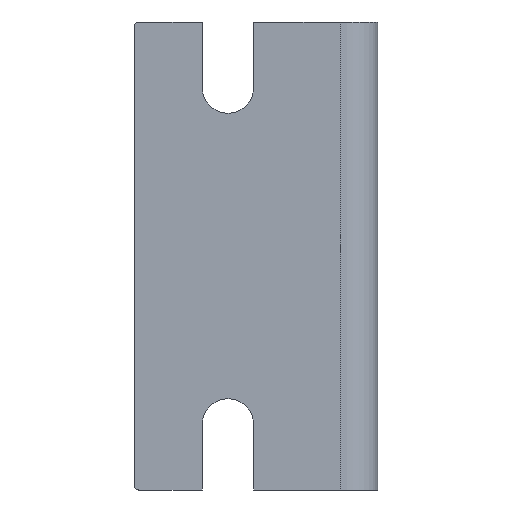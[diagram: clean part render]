
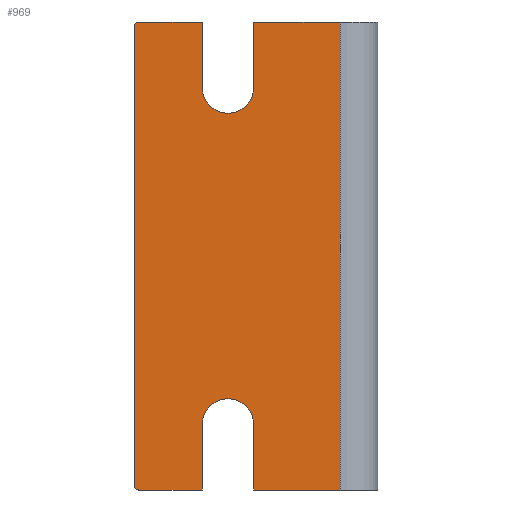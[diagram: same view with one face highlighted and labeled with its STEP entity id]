
A CAD part, front view. The second image highlights one B-rep face of the part: STEP entity #969.
In plain terms, the highlighted planar face has unit normal (0, -1, 0).
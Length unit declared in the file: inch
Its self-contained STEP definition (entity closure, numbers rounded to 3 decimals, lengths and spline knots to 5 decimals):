
#54=DIRECTION('',(1.,0.,0.));
#55=VECTOR('',#54,0.578);
#56=CARTESIAN_POINT('',(-0.828,-1.5,-1.5625));
#57=LINE('',#56,#55);
#104=DIRECTION('',(1.,0.,0.));
#105=VECTOR('',#104,0.423);
#106=CARTESIAN_POINT('',(-1.595,-1.5,-1.5625));
#107=LINE('',#106,#105);
#255=CARTESIAN_POINT('',(-1.595,-1.5,1.5325));
#256=DIRECTION('',(0.,-1.,0.));
#257=DIRECTION('',(0.,0.,1.));
#258=AXIS2_PLACEMENT_3D('',#255,#256,#257);
#263=DIRECTION('',(0.,0.,-1.));
#264=VECTOR('',#263,0.4375);
#265=CARTESIAN_POINT('',(-1.172,-1.5,1.5625));
#266=LINE('',#265,#264);
#270=CARTESIAN_POINT('',(-1.,-1.5,1.125));
#271=DIRECTION('',(0.,1.,0.));
#272=DIRECTION('',(1.,0.,0.));
#273=AXIS2_PLACEMENT_3D('',#270,#271,#272);
#278=DIRECTION('',(0.,0.,-1.));
#279=VECTOR('',#278,0.4375);
#280=CARTESIAN_POINT('',(-0.828,-1.5,1.5625));
#281=LINE('',#280,#279);
#285=DIRECTION('',(0.,0.,-1.));
#286=VECTOR('',#285,3.125);
#287=CARTESIAN_POINT('',(-0.25,-1.5,1.5625));
#288=LINE('',#287,#286);
#292=DIRECTION('',(0.,0.,1.));
#293=VECTOR('',#292,0.4375);
#294=CARTESIAN_POINT('',(-0.828,-1.5,-1.5625));
#295=LINE('',#294,#293);
#299=CARTESIAN_POINT('',(-1.,-1.5,-1.125));
#300=DIRECTION('',(0.,1.,0.));
#301=DIRECTION('',(-1.,0.,0.));
#302=AXIS2_PLACEMENT_3D('',#299,#300,#301);
#307=DIRECTION('',(0.,0.,1.));
#308=VECTOR('',#307,0.4375);
#309=CARTESIAN_POINT('',(-1.172,-1.5,-1.5625));
#310=LINE('',#309,#308);
#314=CARTESIAN_POINT('',(-1.595,-1.5,-1.5325));
#315=DIRECTION('',(0.,-1.,0.));
#316=DIRECTION('',(-1.,0.,0.));
#317=AXIS2_PLACEMENT_3D('',#314,#315,#316);
#322=DIRECTION('',(0.,0.,1.));
#323=VECTOR('',#322,3.065);
#324=CARTESIAN_POINT('',(-1.625,-1.5,-1.5325));
#325=LINE('',#324,#323);
#372=DIRECTION('',(1.,0.,0.));
#373=VECTOR('',#372,0.578);
#374=CARTESIAN_POINT('',(-0.828,-1.5,1.5625));
#375=LINE('',#374,#373);
#400=DIRECTION('',(1.,0.,0.));
#401=VECTOR('',#400,0.423);
#402=CARTESIAN_POINT('',(-1.595,-1.5,1.5625));
#403=LINE('',#402,#401);
#708=CARTESIAN_POINT('',(-0.25,-1.5,-1.5625));
#710=VERTEX_POINT('',#708);
#711=CARTESIAN_POINT('',(-0.25,-1.5,1.5625));
#712=VERTEX_POINT('',#711);
#739=CARTESIAN_POINT('',(-0.828,-1.5,-1.5625));
#741=VERTEX_POINT('',#739);
#743=CARTESIAN_POINT('',(-1.172,-1.5,-1.5625));
#745=VERTEX_POINT('',#743);
#747=CARTESIAN_POINT('',(-1.172,-1.5,1.5625));
#749=VERTEX_POINT('',#747);
#751=CARTESIAN_POINT('',(-0.828,-1.5,1.5625));
#753=VERTEX_POINT('',#751);
#763=CARTESIAN_POINT('',(-0.828,-1.5,-1.125));
#764=VERTEX_POINT('',#763);
#765=CARTESIAN_POINT('',(-1.172,-1.5,-1.125));
#766=VERTEX_POINT('',#765);
#767=CARTESIAN_POINT('',(-0.828,-1.5,1.125));
#768=CARTESIAN_POINT('',(-1.172,-1.5,1.125));
#769=VERTEX_POINT('',#767);
#770=VERTEX_POINT('',#768);
#803=CARTESIAN_POINT('',(-1.595,-1.5,1.5625));
#804=CARTESIAN_POINT('',(-1.625,-1.5,1.5325));
#805=VERTEX_POINT('',#803);
#806=VERTEX_POINT('',#804);
#815=CARTESIAN_POINT('',(-1.625,-1.5,-1.5325));
#816=VERTEX_POINT('',#815);
#817=CARTESIAN_POINT('',(-1.595,-1.5,-1.5625));
#818=VERTEX_POINT('',#817);
#938=CARTESIAN_POINT('',(-1.625,-1.5,-1.5625));
#939=DIRECTION('',(0.,-1.,0.));
#940=DIRECTION('',(1.,0.,0.));
#941=AXIS2_PLACEMENT_3D('',#938,#939,#940);
#942=PLANE('',#941);
#943=ORIENTED_EDGE('',*,*,#928,.F.);
#945=ORIENTED_EDGE('',*,*,#944,.T.);
#947=ORIENTED_EDGE('',*,*,#946,.T.);
#949=ORIENTED_EDGE('',*,*,#948,.F.);
#951=ORIENTED_EDGE('',*,*,#950,.F.);
#953=ORIENTED_EDGE('',*,*,#952,.T.);
#955=ORIENTED_EDGE('',*,*,#954,.T.);
#956=ORIENTED_EDGE('',*,*,#826,.F.);
#957=ORIENTED_EDGE('',*,*,#869,.T.);
#959=ORIENTED_EDGE('',*,*,#958,.F.);
#961=ORIENTED_EDGE('',*,*,#960,.F.);
#962=ORIENTED_EDGE('',*,*,#850,.F.);
#964=ORIENTED_EDGE('',*,*,#963,.F.);
#966=ORIENTED_EDGE('',*,*,#965,.T.);
#967=EDGE_LOOP('',(#943,#945,#947,#949,#951,#953,#955,#956,#957,#959,#961,#962,
#964,#966));
#968=FACE_OUTER_BOUND('',#967,.F.);
#259=CIRCLE('',#258,0.03);
#274=CIRCLE('',#273,0.172);
#303=CIRCLE('',#302,0.172);
#318=CIRCLE('',#317,0.03);
#826=EDGE_CURVE('',#741,#710,#57,.T.);
#850=EDGE_CURVE('',#818,#745,#107,.T.);
#869=EDGE_CURVE('',#741,#764,#295,.T.);
#928=EDGE_CURVE('',#805,#806,#259,.T.);
#944=EDGE_CURVE('',#805,#749,#403,.T.);
#946=EDGE_CURVE('',#749,#770,#266,.T.);
#948=EDGE_CURVE('',#769,#770,#274,.T.);
#950=EDGE_CURVE('',#753,#769,#281,.T.);
#952=EDGE_CURVE('',#753,#712,#375,.T.);
#954=EDGE_CURVE('',#712,#710,#288,.T.);
#958=EDGE_CURVE('',#766,#764,#303,.T.);
#960=EDGE_CURVE('',#745,#766,#310,.T.);
#963=EDGE_CURVE('',#816,#818,#318,.T.);
#965=EDGE_CURVE('',#816,#806,#325,.T.);
#969=ADVANCED_FACE('',(#968),#942,.T.);
